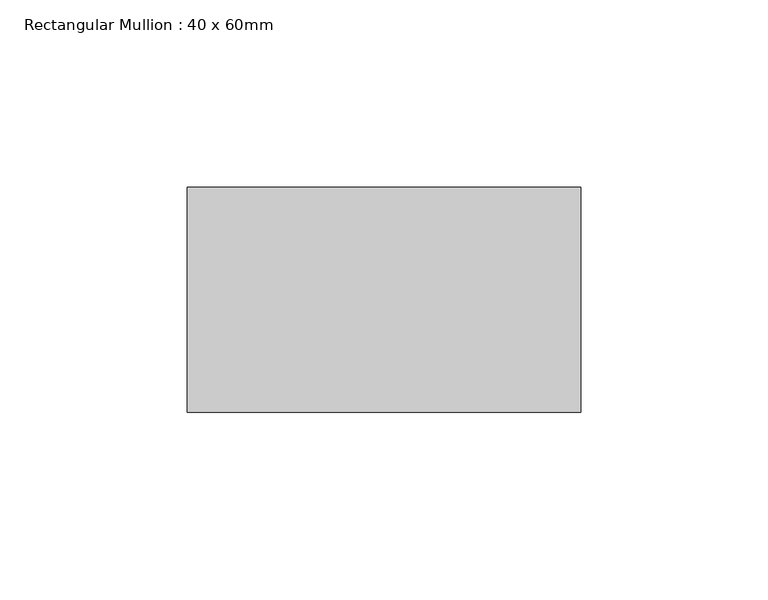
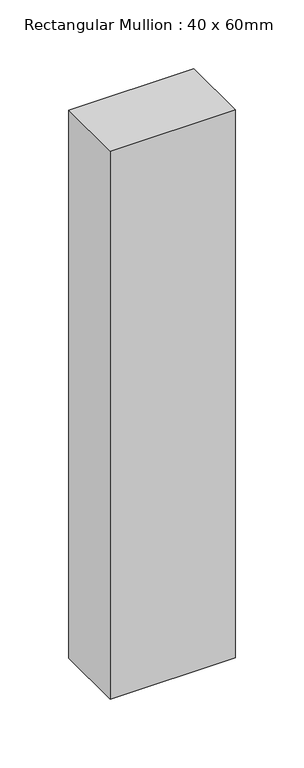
"""IFC4 building model written with IfcOpenShell, lengths in millimetres: member geometry, Rectangular Mullion : 40 x 60mm."""

from ifc_helpers import new_model, si_unit, frame, origin, place, context, project, spatial, polyline, outline, extrude, source, transform, mapped, element, save


def rectangular_mullion_40_x_60mm_bc1cec9a(model_context):
    return source(origin(), model_context, "Body", "SweptSolid", [
        extrude(outline(polyline([(0.0, -10.0), (0.0, -70.0), (-105.0, -70.0), (-105.0, -10.0), (0.0, -10.0)])), frame((0.0, 0.0, -486.3000867), z_axis=(0.0, 0.0, 1.0), x_axis=(1.0, 0.0, 0.0)), (0.0, 0.0, 1.0), 486.3000867),
    ])


if __name__ == "__main__":
    model = new_model("IFC4")
    model_context = context("Model", 3, world=origin())
    ifc_project = project(units=[si_unit("LENGTHUNIT", "METRE", prefix="MILLI")], contexts=[model_context])
    site = spatial("IfcSite", under=ifc_project)
    building = spatial("IfcBuilding", under=site)
    placement = place(None, origin())
    rectangular_mullion_40_x_60mm_shape = rectangular_mullion_40_x_60mm_bc1cec9a(model_context)
    element("IfcMember", 1, ObjectType="Rectangular Mullion : 40 x 60mm", at=placement, inside=building, context=model_context, shape_type="MappedRepresentation", body=[
        mapped(rectangular_mullion_40_x_60mm_shape, transform((0.0, 0.0, 0.0), x_axis=(1.0, 0.0, 0.0), y_axis=(0.0, 1.0, 0.0), z_axis=(0.0, 0.0, 1.0))),
    ])
    save(model, "model.ifc")
